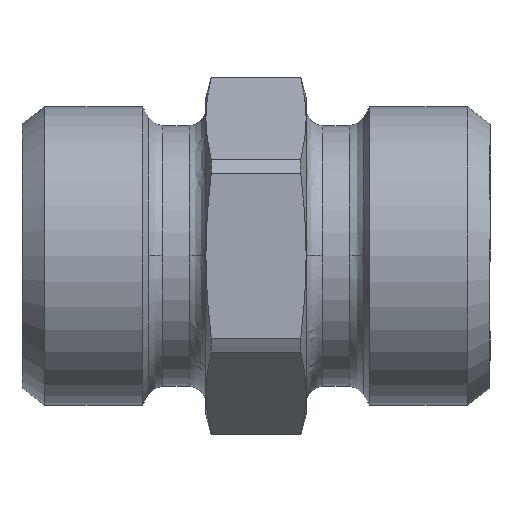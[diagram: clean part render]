
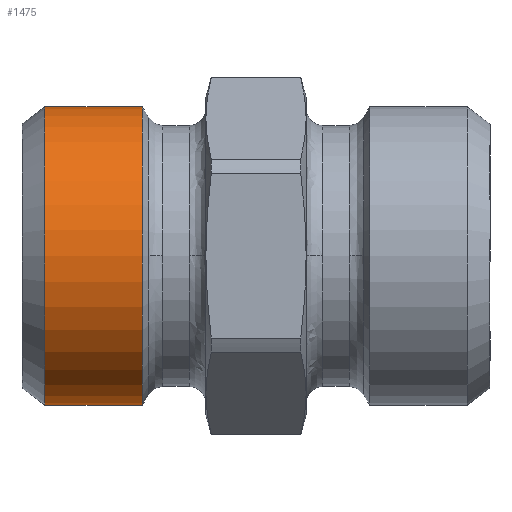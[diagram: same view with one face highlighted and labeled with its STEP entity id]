
A CAD part, top view. The second image highlights one B-rep face of the part: STEP entity #1475.
In plain terms, the highlighted cylindrical face has radius 8.925 mm (diameter 17.85 mm), a partial arc.
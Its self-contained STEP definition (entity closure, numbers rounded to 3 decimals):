
#859=CARTESIAN_POINT('',(0.,-8.925,12.64));
#860=VERTEX_POINT('',#859);
#861=CARTESIAN_POINT('',(0.,-8.925,6.8));
#862=VERTEX_POINT('',#861);
#863=CARTESIAN_POINT('',(0.,-8.925,12.64));
#864=DIRECTION('',(0.0,0.0,-1.0));
#865=VECTOR('',#864,5.84);
#866=LINE('',#863,#865);
#867=EDGE_CURVE('',#860,#862,#866,.T.);
#869=CARTESIAN_POINT('',(0.,8.925,12.64));
#870=VERTEX_POINT('',#869);
#878=CARTESIAN_POINT('',(0.,8.925,6.8));
#879=VERTEX_POINT('',#878);
#880=CARTESIAN_POINT('',(0.,8.925,6.8));
#881=DIRECTION('',(0.0,0.0,1.0));
#882=VECTOR('',#881,5.84);
#883=LINE('',#880,#882);
#884=EDGE_CURVE('',#879,#870,#883,.T.);
#1351=CARTESIAN_POINT('',(0.,0.,6.8));
#1352=DIRECTION('',(0.0,0.0,-1.0));
#1353=DIRECTION('',(0.0,-1.0,0.0));
#1354=AXIS2_PLACEMENT_3D('',#1351,#1352,#1353);
#1355=CIRCLE('',#1354,8.925);
#1356=EDGE_CURVE('',#879,#862,#1355,.T.);
#1452=CARTESIAN_POINT('',(0.,0.,12.64));
#1453=DIRECTION('',(0.0,0.0,-1.0));
#1454=DIRECTION('',(0.0,-1.0,0.0));
#1455=AXIS2_PLACEMENT_3D('',#1452,#1453,#1454);
#1456=CIRCLE('',#1455,8.925);
#1457=EDGE_CURVE('',#870,#860,#1456,.T.);
#1464=CARTESIAN_POINT('',(0.,0.,9.72));
#1465=DIRECTION('',(0.,0.,-1.0));
#1466=DIRECTION('',(0.0,-1.0,0.0));
#1467=AXIS2_PLACEMENT_3D('',#1464,#1465,#1466);
#1468=CYLINDRICAL_SURFACE('',#1467,8.925);
#1469=ORIENTED_EDGE('',*,*,#867,.T.);
#1470=ORIENTED_EDGE('',*,*,#1356,.F.);
#1471=ORIENTED_EDGE('',*,*,#884,.T.);
#1472=ORIENTED_EDGE('',*,*,#1457,.T.);
#1473=EDGE_LOOP('',(#1469,#1470,#1471,#1472));
#1474=FACE_OUTER_BOUND('',#1473,.T.);
#1475=ADVANCED_FACE('',(#1474),#1468,.T.);
